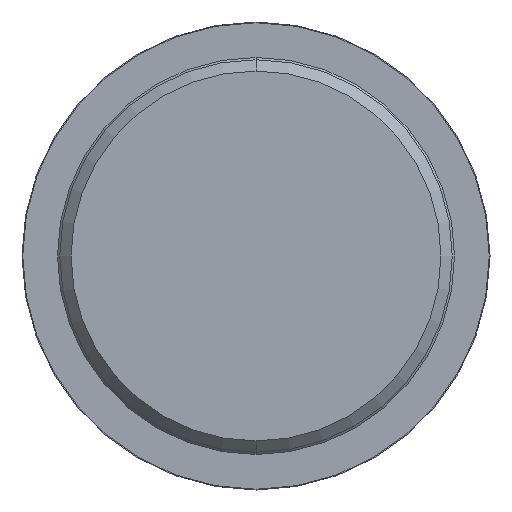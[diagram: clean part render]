
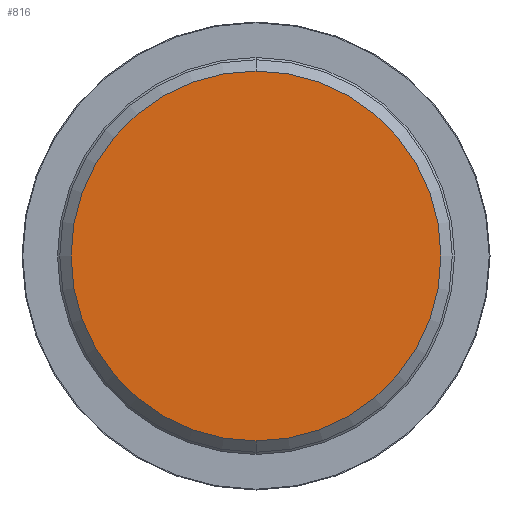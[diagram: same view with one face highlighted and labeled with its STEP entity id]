
A CAD part, front view. The second image highlights one B-rep face of the part: STEP entity #816.
In plain terms, the highlighted planar face has unit normal (0, -1, 0).
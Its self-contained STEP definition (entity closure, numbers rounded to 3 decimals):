
#28 = DIRECTION ( 'NONE',  ( 0., 1., 0. ) ) ;
#45 = CARTESIAN_POINT ( 'NONE',  ( 0., 0., -12.25 ) ) ;
#90 = ORIENTED_EDGE ( 'NONE', *, *, #417, .F. ) ;
#98 = DIRECTION ( 'NONE',  ( 0., 0., 1. ) ) ;
#103 = AXIS2_PLACEMENT_3D ( 'NONE', #669, #433, #657 ) ;
#117 = DIRECTION ( 'NONE',  ( 0., 0., 1. ) ) ;
#200 = VERTEX_POINT ( 'NONE', #45 ) ;
#279 = ORIENTED_EDGE ( 'NONE', *, *, #309, .F. ) ;
#309 = EDGE_CURVE ( 'NONE', #200, #332, #927, .T. ) ;
#332 = VERTEX_POINT ( 'NONE', #365 ) ;
#365 = CARTESIAN_POINT ( 'NONE',  ( 0., 0., 12.25 ) ) ;
#399 = AXIS2_PLACEMENT_3D ( 'NONE', #496, #488, #117 ) ;
#401 = CARTESIAN_POINT ( 'NONE',  ( 0., 0., 0. ) ) ;
#417 = EDGE_CURVE ( 'NONE', #332, #200, #916, .T. ) ;
#433 = DIRECTION ( 'NONE',  ( 0., 1., 0. ) ) ;
#460 = AXIS2_PLACEMENT_3D ( 'NONE', #401, #28, #98 ) ;
#488 = DIRECTION ( 'NONE',  ( 0., 1., 0. ) ) ;
#496 = CARTESIAN_POINT ( 'NONE',  ( 12.25, 0., 0. ) ) ;
#555 = FACE_OUTER_BOUND ( 'NONE', #909, .T. ) ;
#571 = PLANE ( 'NONE',  #399 ) ;
#657 = DIRECTION ( 'NONE',  ( 0., 0., 1. ) ) ;
#669 = CARTESIAN_POINT ( 'NONE',  ( 0., 0., 0. ) ) ;
#816 = ADVANCED_FACE ( 'NONE', ( #555 ), #571, .F. ) ;
#909 = EDGE_LOOP ( 'NONE', ( #90, #279 ) ) ;
#916 = CIRCLE ( 'NONE', #460, 12.25 ) ;
#927 = CIRCLE ( 'NONE', #103, 12.25 ) ;
